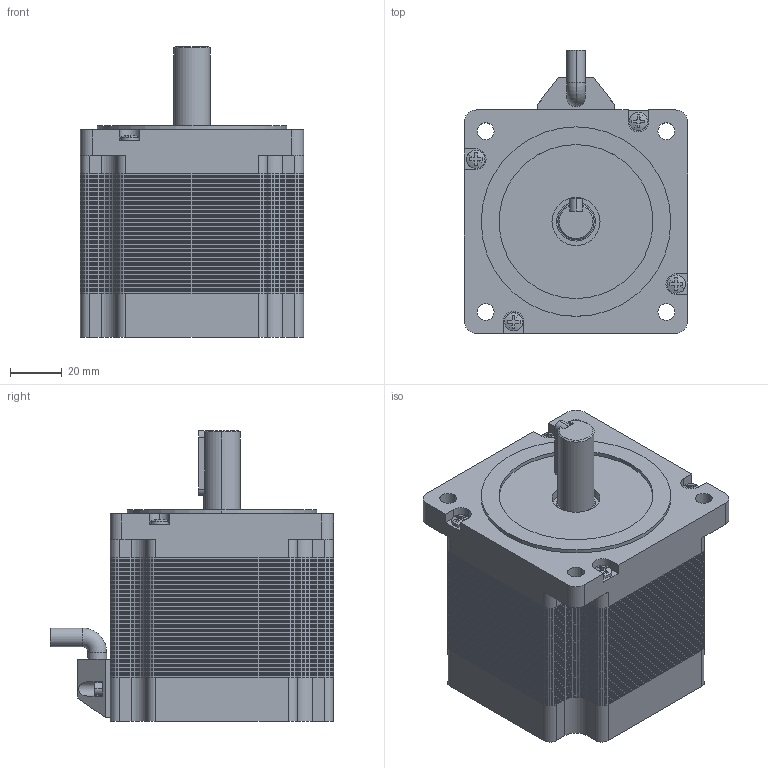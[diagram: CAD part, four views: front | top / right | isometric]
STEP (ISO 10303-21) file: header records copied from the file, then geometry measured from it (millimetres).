
FILE_DESCRIPTION (( 'STEP AP203' ), '1' );
FILE_NAME ('SM3402.STEP', '2020-05-23T03:51:03', ( 'Windows' ), ( 'Microsoft' ), 'SwSTEP 2.0', 'SolidWorks 2016', '' );
FILE_SCHEMA (( 'CONFIG_CONTROL_DESIGN' ));
Products named in the file (1): SM3402
Bounding box: 86 x 109.03 x 112 mm (x, y, z)
Volume: 547687.9 mm3; surface area: 1279651.7 mm2
Topology: 96 solids, 96 shells, 2659 faces, 7329 edges, 4876 vertices
Faces by surface type: plane 1430, cylinder 1206, cone 13, sphere 8, torus 2
Entity records: 85157 total; most frequent: DIRECTION 15075, CARTESIAN_POINT 15007, ORIENTED_EDGE 14642, EDGE_CURVE 7321, AXIS2_PLACEMENT_3D 5124, VERTEX_POINT 4876, VECTOR 4827, LINE 4827
